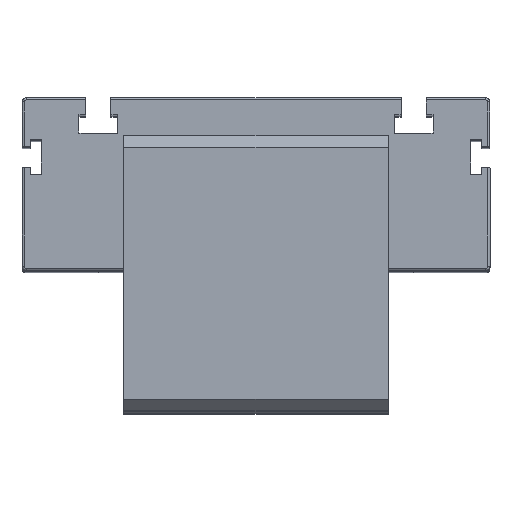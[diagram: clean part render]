
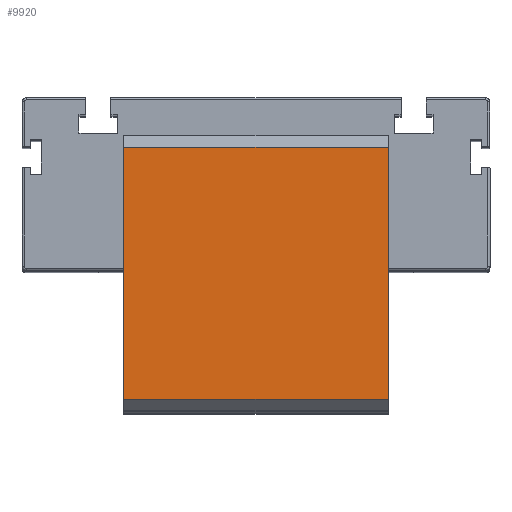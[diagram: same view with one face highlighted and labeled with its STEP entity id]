
A CAD part, top view. The second image highlights one B-rep face of the part: STEP entity #9920.
In plain terms, the highlighted planar face has unit normal (0, 0, 1).
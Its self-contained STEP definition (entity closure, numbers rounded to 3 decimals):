
#422 = CARTESIAN_POINT ( 'NONE',  ( 130., 129.5, 55. ) ) ;
#674 = CARTESIAN_POINT ( 'NONE',  ( 130., 0., 55. ) ) ;
#696 = AXIS2_PLACEMENT_3D ( 'NONE', #11824, #10639, #3514 ) ;
#1264 = CARTESIAN_POINT ( 'NONE',  ( 0., 5.5, 55. ) ) ;
#1769 = VERTEX_POINT ( 'NONE', #12796 ) ;
#1826 = ORIENTED_EDGE ( 'NONE', *, *, #4595, .F. ) ;
#1945 = DIRECTION ( 'NONE',  ( 0., -1., 0. ) ) ;
#2125 = DIRECTION ( 'NONE',  ( 0., -1., 0. ) ) ;
#2157 = PLANE ( 'NONE',  #696 ) ;
#2366 = CARTESIAN_POINT ( 'NONE',  ( 0., 0., 55. ) ) ;
#2465 = EDGE_CURVE ( 'NONE', #8963, #13337, #9508, .T. ) ;
#2796 = DIRECTION ( 'NONE',  ( -1., 0., 0. ) ) ;
#3514 = DIRECTION ( 'NONE',  ( 0., 1., 0. ) ) ;
#3526 = EDGE_LOOP ( 'NONE', ( #9563, #8890, #1826, #11684 ) ) ;
#3740 = VECTOR ( 'NONE', #2125, 1000. ) ;
#4134 = LINE ( 'NONE', #4216, #4471 ) ;
#4216 = CARTESIAN_POINT ( 'NONE',  ( 130., 5.5, 55. ) ) ;
#4444 = VECTOR ( 'NONE', #1945, 1000. ) ;
#4471 = VECTOR ( 'NONE', #8869, 1000. ) ;
#4595 = EDGE_CURVE ( 'NONE', #1769, #14878, #6807, .T. ) ;
#6363 = EDGE_CURVE ( 'NONE', #1769, #8963, #9061, .T. ) ;
#6807 = LINE ( 'NONE', #674, #4444 ) ;
#7802 = CARTESIAN_POINT ( 'NONE',  ( 130., 5.5, 55. ) ) ;
#8182 = FACE_OUTER_BOUND ( 'NONE', #3526, .T. ) ;
#8643 = CARTESIAN_POINT ( 'NONE',  ( 0., 129.5, 55. ) ) ;
#8869 = DIRECTION ( 'NONE',  ( -1., 0., 0. ) ) ;
#8890 = ORIENTED_EDGE ( 'NONE', *, *, #12560, .F. ) ;
#8963 = VERTEX_POINT ( 'NONE', #8643 ) ;
#9061 = LINE ( 'NONE', #422, #12285 ) ;
#9508 = LINE ( 'NONE', #2366, #3740 ) ;
#9563 = ORIENTED_EDGE ( 'NONE', *, *, #2465, .T. ) ;
#9920 = ADVANCED_FACE ( 'NONE', ( #8182 ), #2157, .F. ) ;
#10639 = DIRECTION ( 'NONE',  ( 0., 0., -1. ) ) ;
#11684 = ORIENTED_EDGE ( 'NONE', *, *, #6363, .T. ) ;
#11824 = CARTESIAN_POINT ( 'NONE',  ( 130., 0., 55. ) ) ;
#12285 = VECTOR ( 'NONE', #2796, 1000. ) ;
#12560 = EDGE_CURVE ( 'NONE', #14878, #13337, #4134, .T. ) ;
#12796 = CARTESIAN_POINT ( 'NONE',  ( 130., 129.5, 55. ) ) ;
#13337 = VERTEX_POINT ( 'NONE', #1264 ) ;
#14878 = VERTEX_POINT ( 'NONE', #7802 ) ;
